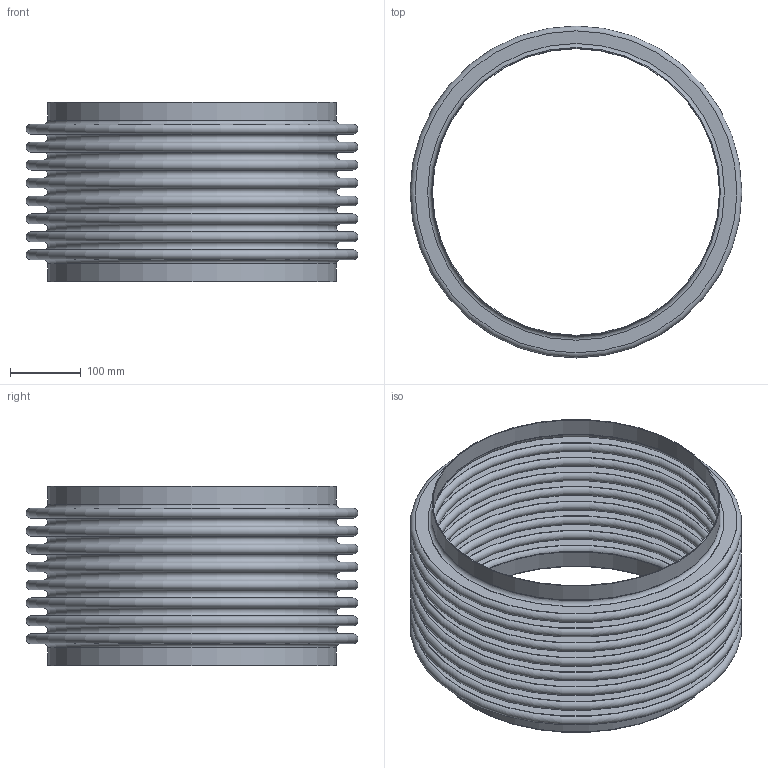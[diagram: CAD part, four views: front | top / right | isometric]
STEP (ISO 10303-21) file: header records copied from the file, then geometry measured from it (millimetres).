
FILE_DESCRIPTION(/* description */ (''),/* implementation_level */ '2;1');
FILE_NAME(/* name */ 'US-16-8-85S.stp',/* time_stamp */ '2026-07-21T11:15:51-05:00',/* author */ ('linda'),/* organization */ (''),/* preprocessor_version */ 'ST-DEVELOPER v20.1',/* originating_system */ 'Autodesk Inventor 2026',/* authorisation */ '');
FILE_SCHEMA (('AUTOMOTIVE_DESIGN { 1 0 10303 214 3 1 1 }'));
Length unit declared in the file: inch
Products named in the file (1): Part3
Bounding box: 469.9 x 469.9 x 254 mm (x, y, z)
Volume: 1093758 mm3; surface area: 1803590 mm2
Topology: 3 solids, 3 shells, 76 faces, 114 edges, 77 vertices
Faces by surface type: plane 38, torus 34, cylinder 4
Full cylindrical faces by diameter (mm): 406.4 x2, 408.838 x2
Entity records: 1899 total; most frequent: DIRECTION 378, CARTESIAN_POINT 268, ORIENTED_EDGE 228, AXIS2_PLACEMENT_3D 187, EDGE_LOOP 114, EDGE_CURVE 114, CIRCLE 110, STYLED_ITEM 79
